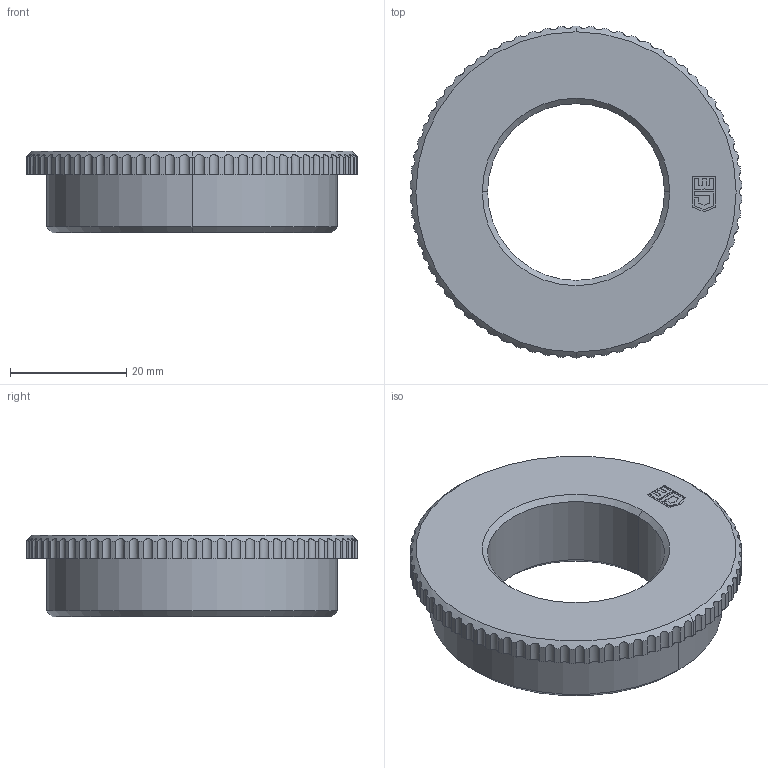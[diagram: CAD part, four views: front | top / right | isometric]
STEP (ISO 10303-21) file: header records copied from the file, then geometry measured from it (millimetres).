
FILE_DESCRIPTION (( 'STEP AP203' ), '1' );
FILE_NAME ('M50M32.STEP', '2005-10-07T10:45:45', ( ' ' ), ( '' ), 'SwSTEP 2.0', 'SolidWorks 2005143', '' );
FILE_SCHEMA (( 'CONFIG_CONTROL_DESIGN' ));
Length unit declared in the file: millimetre
Products named in the file (1): M50M32
Bounding box: 56.98 x 57 x 14 mm (x, y, z)
Volume: 19352.7 mm3; surface area: 6994.6 mm2
Topology: 1 solids, 1 shells, 193 faces, 554 edges, 367 vertices
Faces by surface type: cylinder 145, plane 40, cone 8
Entity records: 7252 total; most frequent: CARTESIAN_POINT 2025, ORIENTED_EDGE 1108, DIRECTION 1101, EDGE_CURVE 554, AXIS2_PLACEMENT_3D 423, VERTEX_POINT 367, VECTOR 255, LINE 255
